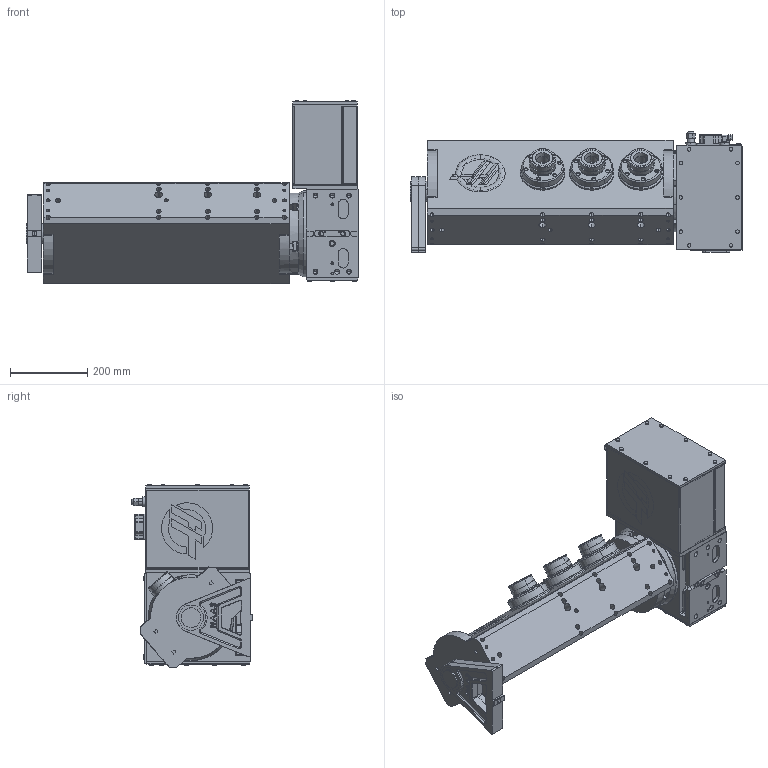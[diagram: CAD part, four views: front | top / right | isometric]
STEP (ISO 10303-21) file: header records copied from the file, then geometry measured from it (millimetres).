
FILE_DESCRIPTION (( 'STEP AP214' ), '1' );
FILE_NAME ('T5C3_STEP_12_2021.STEP', '2021-12-17T23:13:19', ( '' ), ( '' ), 'SwSTEP 2.0', 'SolidWorks 2021', '' );
FILE_SCHEMA (( 'AUTOMOTIVE_DESIGN' ));
Length unit declared in the file: inch
Products named in the file (6): T5C3_3-B-AXIS ; T5C3_2-B-AXIS; T5C3-BODY; T5C3-A-AXIS; T5C3_STEP_12_2021; T5C3_1-B-AXIS
Assembly tree (5 placements, depth 2):
  T5C3_STEP_12_2021
    T5C3-BODY
    T5C3-A-AXIS
    T5C3_2-B-AXIS
    T5C3_1-B-AXIS
    T5C3_3-B-AXIS 
Bounding box: 858.46 x 312.75 x 473.62 mm (x, y, z)
Volume: 33100586.6 mm3; surface area: 2047318.3 mm2
Topology: 7 solids, 37 shells, 2998 faces, 7289 edges, 4489 vertices
Faces by surface type: cylinder 1174, plane 957, cone 429, torus 171, sphere 165, bspline 102
Entity records: 130833 total; most frequent: CARTESIAN_POINT 24956, DIRECTION 15226, ORIENTED_EDGE 14318, EDGE_CURVE 7159, AXIS2_PLACEMENT_3D 6089, VERTEX_POINT 4489, EDGE_LOOP 3348, CIRCLE 3185
